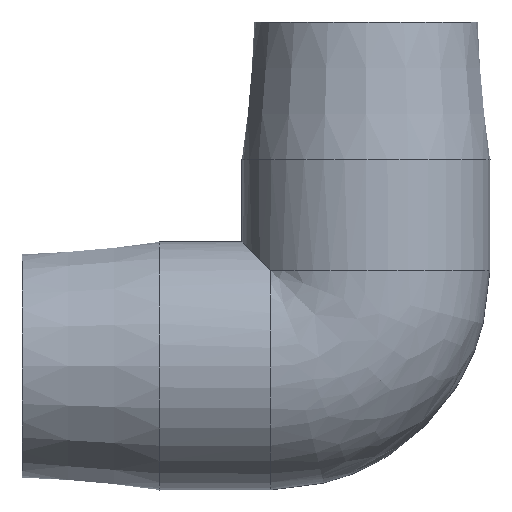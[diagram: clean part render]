
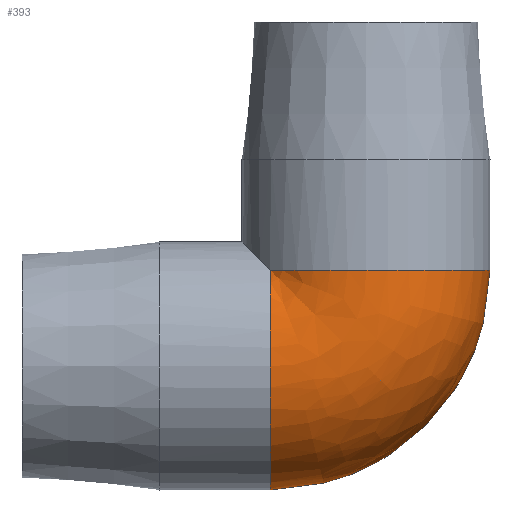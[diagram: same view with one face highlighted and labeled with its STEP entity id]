
A CAD part, front view. The second image highlights one B-rep face of the part: STEP entity #393.
In plain terms, the highlighted free-form (B-spline) face has degree [2, 2] with [9, 3] control points.
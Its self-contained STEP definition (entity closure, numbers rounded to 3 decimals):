
#27=(
BOUNDED_SURFACE()
B_SPLINE_SURFACE(2,2,((#666,#667,#668),(#669,#670,#671),(#672,#673,#674),
(#675,#676,#677),(#678,#679,#680),(#681,#682,#683),(#684,#685,#686),(#687,
#688,#689),(#690,#691,#692)),.UNSPECIFIED.,.F.,.F.,.F.)
B_SPLINE_SURFACE_WITH_KNOTS((3,2,2,2,3),(3,3),(-2.454,-1.227,
0.,1.227,2.454),(0.,1.571),
 .UNSPECIFIED.)
GEOMETRIC_REPRESENTATION_ITEM()
RATIONAL_B_SPLINE_SURFACE(((1.,0.707,1.),(0.818,
0.578,0.818),(1.,0.707,1.),(0.818,
0.578,0.818),(1.,0.707,1.),(0.818,
0.578,0.818),(1.,0.707,1.),(0.818,
0.578,0.818),(1.,0.707,1.)))
REPRESENTATION_ITEM('')
SURFACE()
);
#88=FACE_OUTER_BOUND('',#120,.T.);
#120=EDGE_LOOP('',(#285,#286,#287,#288));
#162=CIRCLE('',#454,22.);
#163=CIRCLE('',#455,22.);
#164=CIRCLE('',#456,22.);
#165=CIRCLE('',#457,22.);
#193=VERTEX_POINT('',#693);
#194=VERTEX_POINT('',#694);
#195=VERTEX_POINT('',#696);
#196=VERTEX_POINT('',#698);
#229=EDGE_CURVE('',#193,#194,#162,.T.);
#230=EDGE_CURVE('',#194,#195,#163,.T.);
#231=EDGE_CURVE('',#195,#196,#164,.T.);
#232=EDGE_CURVE('',#196,#193,#165,.T.);
#285=ORIENTED_EDGE('',*,*,#229,.T.);
#286=ORIENTED_EDGE('',*,*,#230,.T.);
#287=ORIENTED_EDGE('',*,*,#231,.T.);
#288=ORIENTED_EDGE('',*,*,#232,.T.);
#393=ADVANCED_FACE('',(#88),#27,.F.);
#454=AXIS2_PLACEMENT_3D('',#695,#533,#534);
#455=AXIS2_PLACEMENT_3D('',#697,#535,#536);
#456=AXIS2_PLACEMENT_3D('',#699,#537,#538);
#457=AXIS2_PLACEMENT_3D('',#700,#539,#540);
#533=DIRECTION('center_axis',(0.,0.,
-1.));
#534=DIRECTION('ref_axis',(-1.,0.,0.));
#535=DIRECTION('center_axis',(0.,0.,
-1.));
#536=DIRECTION('ref_axis',(-1.,0.,0.));
#537=DIRECTION('center_axis',(1.,0.,0.));
#538=DIRECTION('ref_axis',(0.,0.,-1.));
#539=DIRECTION('center_axis',(1.,0.,0.));
#540=DIRECTION('ref_axis',(0.,0.,-1.));
#666=CARTESIAN_POINT('Ctrl Pts',(-17.,13.964,17.));
#667=CARTESIAN_POINT('Ctrl Pts',(-17.,13.964,17.));
#668=CARTESIAN_POINT('Ctrl Pts',(-17.,13.964,17.));
#669=CARTESIAN_POINT('Ctrl Pts',(-17.,25.934,7.168));
#670=CARTESIAN_POINT('Ctrl Pts',(-7.168,25.934,7.168));
#671=CARTESIAN_POINT('Ctrl Pts',(-7.168,25.934,17.));
#672=CARTESIAN_POINT('Ctrl Pts',(-17.,20.712,-7.416));
#673=CARTESIAN_POINT('Ctrl Pts',(7.416,20.712,-7.416));
#674=CARTESIAN_POINT('Ctrl Pts',(7.416,20.712,17.));
#675=CARTESIAN_POINT('Ctrl Pts',(-17.,15.49,-22.));
#676=CARTESIAN_POINT('Ctrl Pts',(22.,15.49,-22.));
#677=CARTESIAN_POINT('Ctrl Pts',(22.,15.49,17.));
#678=CARTESIAN_POINT('Ctrl Pts',(-17.,0.,-22.));
#679=CARTESIAN_POINT('Ctrl Pts',(22.,0.,-22.));
#680=CARTESIAN_POINT('Ctrl Pts',(22.,0.,17.));
#681=CARTESIAN_POINT('Ctrl Pts',(-17.,-15.49,-22.));
#682=CARTESIAN_POINT('Ctrl Pts',(22.,-15.49,-22.));
#683=CARTESIAN_POINT('Ctrl Pts',(22.,-15.49,17.));
#684=CARTESIAN_POINT('Ctrl Pts',(-17.,-20.712,-7.416));
#685=CARTESIAN_POINT('Ctrl Pts',(7.416,-20.712,-7.416));
#686=CARTESIAN_POINT('Ctrl Pts',(7.416,-20.712,17.));
#687=CARTESIAN_POINT('Ctrl Pts',(-17.,-25.934,7.168));
#688=CARTESIAN_POINT('Ctrl Pts',(-7.168,-25.934,7.168));
#689=CARTESIAN_POINT('Ctrl Pts',(-7.168,-25.934,17.));
#690=CARTESIAN_POINT('Ctrl Pts',(-17.,-13.964,17.));
#691=CARTESIAN_POINT('Ctrl Pts',(-17.,-13.964,17.));
#692=CARTESIAN_POINT('Ctrl Pts',(-17.,-13.964,17.));
#693=CARTESIAN_POINT('',(-17.,13.964,17.));
#694=CARTESIAN_POINT('',(0.,-22.,17.));
#695=CARTESIAN_POINT('Origin',(0.,0.,
17.));
#696=CARTESIAN_POINT('',(-17.,-13.964,17.));
#697=CARTESIAN_POINT('Origin',(0.,0.,
17.));
#698=CARTESIAN_POINT('',(-17.,-22.,0.));
#699=CARTESIAN_POINT('Origin',(-17.,0.,0.));
#700=CARTESIAN_POINT('Origin',(-17.,0.,0.));
